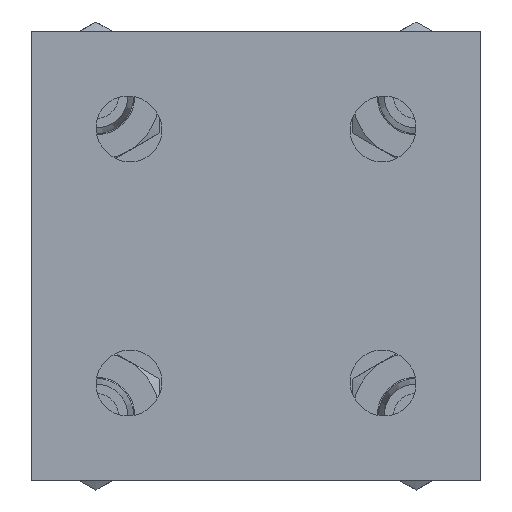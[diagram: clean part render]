
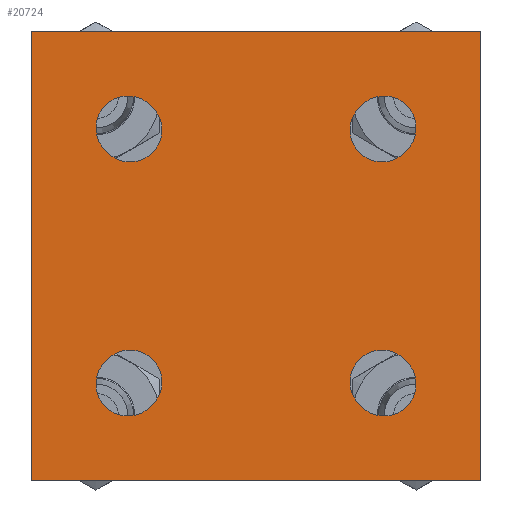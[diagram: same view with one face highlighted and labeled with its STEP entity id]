
A CAD part, front view. The second image highlights one B-rep face of the part: STEP entity #20724.
In plain terms, the highlighted planar face has unit normal (0, -1, 0).
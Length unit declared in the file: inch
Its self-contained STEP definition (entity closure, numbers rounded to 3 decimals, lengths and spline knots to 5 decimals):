
#19836=CARTESIAN_POINT('',(0.875,-5.69,-0.875));
#19837=VERTEX_POINT('',#19836);
#19844=CARTESIAN_POINT('',(-0.875,-5.69,-0.875));
#19845=VERTEX_POINT('',#19844);
#19846=CARTESIAN_POINT('',(0.,-5.69,-0.875));
#19847=DIRECTION('',(-1.0,0.0,-0.0));
#19848=VECTOR('',#19847,1.0);
#19849=LINE('',#19846,#19848);
#19850=EDGE_CURVE('',#19837,#19845,#19849,.T.);
#19938=CARTESIAN_POINT('',(0.875,-5.69,0.875));
#19939=VERTEX_POINT('',#19938);
#19946=CARTESIAN_POINT('',(0.875,-5.69,0.));
#19947=DIRECTION('',(0.0,0.0,-1.0));
#19948=VECTOR('',#19947,1.0);
#19949=LINE('',#19946,#19948);
#19950=EDGE_CURVE('',#19939,#19837,#19949,.T.);
#20022=CARTESIAN_POINT('',(-0.875,-5.69,0.875));
#20023=VERTEX_POINT('',#20022);
#20030=CARTESIAN_POINT('',(0.,-5.69,0.875));
#20031=DIRECTION('',(1.0,0.0,0.0));
#20032=VECTOR('',#20031,1.0);
#20033=LINE('',#20030,#20032);
#20034=EDGE_CURVE('',#20023,#19939,#20033,.T.);
#20114=CARTESIAN_POINT('',(-0.875,-5.69,0.));
#20115=DIRECTION('',(0.0,0.0,-1.0));
#20116=VECTOR('',#20115,1.0);
#20117=LINE('',#20114,#20116);
#20118=EDGE_CURVE('',#20023,#19845,#20117,.T.);
#20405=CARTESIAN_POINT('',(0.58051,-5.69,-0.40374));
#20406=VERTEX_POINT('',#20405);
#20414=CARTESIAN_POINT('',(0.58839,-5.69,-0.41161));
#20415=VERTEX_POINT('',#20414);
#20422=CARTESIAN_POINT('',(0.33839,-5.69,-0.16161));
#20423=DIRECTION('',(0.707,0.0,-0.707));
#20424=VECTOR('',#20423,1.0);
#20425=LINE('',#20422,#20424);
#20426=EDGE_CURVE('',#20406,#20415,#20425,.T.);
#20437=CARTESIAN_POINT('',(0.40374,-5.69,-0.58051));
#20438=VERTEX_POINT('',#20437);
#20447=CARTESIAN_POINT('',(0.49213,-5.69,-0.49213));
#20448=DIRECTION('',(0.0,1.0,0.0));
#20449=DIRECTION('',(-1.0,0.0,-0.0));
#20450=AXIS2_PLACEMENT_3D('',#20447,#20448,#20449);
#20451=CIRCLE('',#20450,0.125);
#20452=EDGE_CURVE('',#20438,#20406,#20451,.T.);
#20463=CARTESIAN_POINT('',(0.58839,-5.69,0.41161));
#20464=VERTEX_POINT('',#20463);
#20472=CARTESIAN_POINT('',(0.58051,-5.69,0.40374));
#20473=VERTEX_POINT('',#20472);
#20480=CARTESIAN_POINT('',(0.33839,-5.69,0.16161));
#20481=DIRECTION('',(-0.707,0.0,-0.707));
#20482=VECTOR('',#20481,1.0);
#20483=LINE('',#20480,#20482);
#20484=EDGE_CURVE('',#20464,#20473,#20483,.T.);
#20495=CARTESIAN_POINT('',(0.41161,-5.69,0.58839));
#20496=VERTEX_POINT('',#20495);
#20505=CARTESIAN_POINT('',(0.5,-5.69,0.5));
#20506=DIRECTION('',(0.0,1.0,0.0));
#20507=DIRECTION('',(-1.0,0.0,-0.0));
#20508=AXIS2_PLACEMENT_3D('',#20505,#20506,#20507);
#20509=CIRCLE('',#20508,0.125);
#20510=EDGE_CURVE('',#20496,#20464,#20509,.T.);
#20521=CARTESIAN_POINT('',(-0.58839,-5.69,-0.41161));
#20522=VERTEX_POINT('',#20521);
#20530=CARTESIAN_POINT('',(-0.58051,-5.69,-0.40374));
#20531=VERTEX_POINT('',#20530);
#20538=CARTESIAN_POINT('',(-0.33839,-5.69,-0.16161));
#20539=DIRECTION('',(0.707,0.0,0.707));
#20540=VECTOR('',#20539,1.0);
#20541=LINE('',#20538,#20540);
#20542=EDGE_CURVE('',#20522,#20531,#20541,.T.);
#20553=CARTESIAN_POINT('',(-0.41161,-5.69,-0.58839));
#20554=VERTEX_POINT('',#20553);
#20563=CARTESIAN_POINT('',(-0.5,-5.69,-0.5));
#20564=DIRECTION('',(0.0,1.0,0.0));
#20565=DIRECTION('',(-1.0,0.0,-0.0));
#20566=AXIS2_PLACEMENT_3D('',#20563,#20564,#20565);
#20567=CIRCLE('',#20566,0.125);
#20568=EDGE_CURVE('',#20554,#20522,#20567,.T.);
#20579=CARTESIAN_POINT('',(-0.58051,-5.69,0.40374));
#20580=VERTEX_POINT('',#20579);
#20588=CARTESIAN_POINT('',(-0.58839,-5.69,0.41161));
#20589=VERTEX_POINT('',#20588);
#20596=CARTESIAN_POINT('',(-0.33839,-5.69,0.16161));
#20597=DIRECTION('',(-0.707,0.0,0.707));
#20598=VECTOR('',#20597,1.0);
#20599=LINE('',#20596,#20598);
#20600=EDGE_CURVE('',#20580,#20589,#20599,.T.);
#20611=CARTESIAN_POINT('',(-0.40374,-5.69,0.58051));
#20612=VERTEX_POINT('',#20611);
#20621=CARTESIAN_POINT('',(-0.49213,-5.69,0.49213));
#20622=DIRECTION('',(0.0,1.0,0.0));
#20623=DIRECTION('',(1.0,0.0,0.0));
#20624=AXIS2_PLACEMENT_3D('',#20621,#20622,#20623);
#20625=CIRCLE('',#20624,0.125);
#20626=EDGE_CURVE('',#20612,#20580,#20625,.T.);
#20637=ORIENTED_EDGE('',*,*,#20034,.F.);
#20638=ORIENTED_EDGE('',*,*,#20118,.T.);
#20639=ORIENTED_EDGE('',*,*,#19850,.F.);
#20640=ORIENTED_EDGE('',*,*,#19950,.F.);
#20641=EDGE_LOOP('',(#20637,#20638,#20639,#20640));
#20642=FACE_OUTER_BOUND('',#20641,.T.);
#20643=ORIENTED_EDGE('',*,*,#20426,.T.);
#20644=CARTESIAN_POINT('',(0.41161,-5.69,-0.58839));
#20645=VERTEX_POINT('',#20644);
#20646=CARTESIAN_POINT('',(0.5,-5.69,-0.5));
#20647=DIRECTION('',(0.0,1.0,0.0));
#20648=DIRECTION('',(-1.0,0.0,-0.0));
#20649=AXIS2_PLACEMENT_3D('',#20646,#20647,#20648);
#20650=CIRCLE('',#20649,0.125);
#20651=EDGE_CURVE('',#20415,#20645,#20650,.T.);
#20652=ORIENTED_EDGE('',*,*,#20651,.T.);
#20653=CARTESIAN_POINT('',(0.15767,-5.69,-0.33445));
#20654=DIRECTION('',(-0.707,0.0,0.707));
#20655=VECTOR('',#20654,1.0);
#20656=LINE('',#20653,#20655);
#20657=EDGE_CURVE('',#20645,#20438,#20656,.T.);
#20658=ORIENTED_EDGE('',*,*,#20657,.T.);
#20659=ORIENTED_EDGE('',*,*,#20452,.T.);
#20660=EDGE_LOOP('',(#20643,#20652,#20658,#20659));
#20661=FACE_BOUND('',#20660,.T.);
#20662=CARTESIAN_POINT('',(0.40374,-5.69,0.58051));
#20663=VERTEX_POINT('',#20662);
#20664=CARTESIAN_POINT('',(0.15767,-5.69,0.33445));
#20665=DIRECTION('',(0.707,0.0,0.707));
#20666=VECTOR('',#20665,1.0);
#20667=LINE('',#20664,#20666);
#20668=EDGE_CURVE('',#20663,#20496,#20667,.T.);
#20669=ORIENTED_EDGE('',*,*,#20668,.T.);
#20670=ORIENTED_EDGE('',*,*,#20510,.T.);
#20671=ORIENTED_EDGE('',*,*,#20484,.T.);
#20672=CARTESIAN_POINT('',(0.49213,-5.69,0.49213));
#20673=DIRECTION('',(0.0,1.0,0.0));
#20674=DIRECTION('',(-1.0,0.0,-0.0));
#20675=AXIS2_PLACEMENT_3D('',#20672,#20673,#20674);
#20676=CIRCLE('',#20675,0.125);
#20677=EDGE_CURVE('',#20473,#20663,#20676,.T.);
#20678=ORIENTED_EDGE('',*,*,#20677,.T.);
#20679=EDGE_LOOP('',(#20669,#20670,#20671,#20678));
#20680=FACE_BOUND('',#20679,.T.);
#20681=CARTESIAN_POINT('',(-0.40374,-5.69,-0.58051));
#20682=VERTEX_POINT('',#20681);
#20683=CARTESIAN_POINT('',(-0.15767,-5.69,-0.33445));
#20684=DIRECTION('',(-0.707,0.0,-0.707));
#20685=VECTOR('',#20684,1.0);
#20686=LINE('',#20683,#20685);
#20687=EDGE_CURVE('',#20682,#20554,#20686,.T.);
#20688=ORIENTED_EDGE('',*,*,#20687,.T.);
#20689=ORIENTED_EDGE('',*,*,#20568,.T.);
#20690=ORIENTED_EDGE('',*,*,#20542,.T.);
#20691=CARTESIAN_POINT('',(-0.49213,-5.69,-0.49213));
#20692=DIRECTION('',(0.0,1.0,0.0));
#20693=DIRECTION('',(1.0,0.0,0.0));
#20694=AXIS2_PLACEMENT_3D('',#20691,#20692,#20693);
#20695=CIRCLE('',#20694,0.125);
#20696=EDGE_CURVE('',#20531,#20682,#20695,.T.);
#20697=ORIENTED_EDGE('',*,*,#20696,.T.);
#20698=EDGE_LOOP('',(#20688,#20689,#20690,#20697));
#20699=FACE_BOUND('',#20698,.T.);
#20700=CARTESIAN_POINT('',(-0.41161,-5.69,0.58839));
#20701=VERTEX_POINT('',#20700);
#20702=CARTESIAN_POINT('',(-0.15767,-5.69,0.33445));
#20703=DIRECTION('',(0.707,0.0,-0.707));
#20704=VECTOR('',#20703,1.0);
#20705=LINE('',#20702,#20704);
#20706=EDGE_CURVE('',#20701,#20612,#20705,.T.);
#20707=ORIENTED_EDGE('',*,*,#20706,.T.);
#20708=ORIENTED_EDGE('',*,*,#20626,.T.);
#20709=ORIENTED_EDGE('',*,*,#20600,.T.);
#20710=CARTESIAN_POINT('',(-0.5,-5.69,0.5));
#20711=DIRECTION('',(0.0,1.0,0.0));
#20712=DIRECTION('',(-1.0,0.0,-0.0));
#20713=AXIS2_PLACEMENT_3D('',#20710,#20711,#20712);
#20714=CIRCLE('',#20713,0.125);
#20715=EDGE_CURVE('',#20589,#20701,#20714,.T.);
#20716=ORIENTED_EDGE('',*,*,#20715,.T.);
#20717=EDGE_LOOP('',(#20707,#20708,#20709,#20716));
#20718=FACE_BOUND('',#20717,.T.);
#20719=CARTESIAN_POINT('',(0.,-5.69,0.));
#20720=DIRECTION('',(0.0,1.0,0.0));
#20721=DIRECTION('',(1.0,0.0,0.0));
#20722=AXIS2_PLACEMENT_3D('',#20719,#20720,#20721);
#20723=PLANE('',#20722);
#20724=ADVANCED_FACE('',(#20642,#20661,#20680,#20699,#20718),#20723,.F.);
